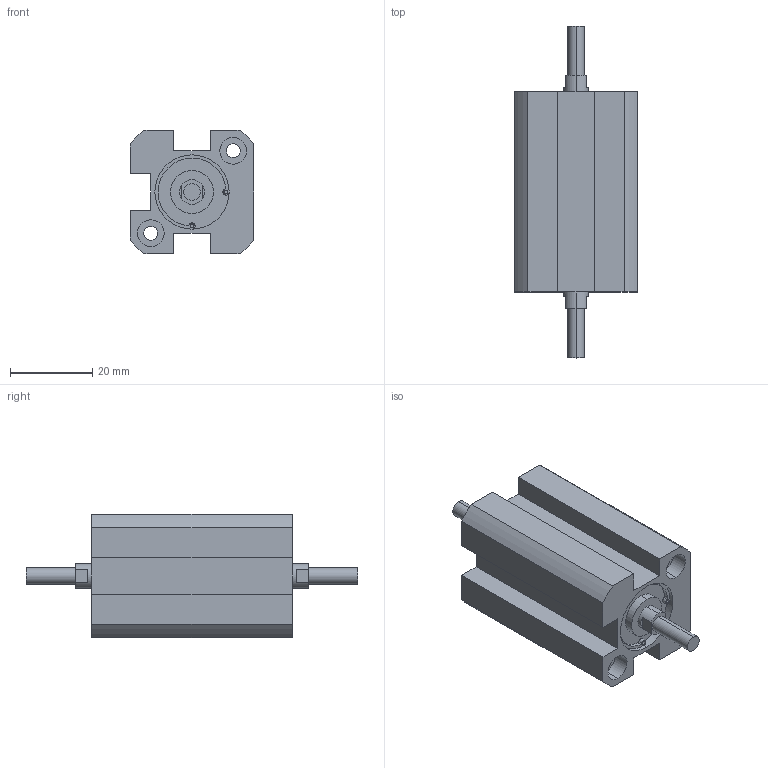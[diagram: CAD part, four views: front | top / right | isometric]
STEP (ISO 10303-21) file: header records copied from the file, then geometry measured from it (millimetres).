
FILE_DESCRIPTION (( 'STEP AP203' ), '1' );
FILE_NAME ('XG#M7-16D-10.STEP', '2016-05-24T02:22:03', ( '' ), ( '' ), 'SwSTEP 2.0', 'SolidWorks 2014', '' );
FILE_SCHEMA (( 'CONFIG_CONTROL_DESIGN' ));
Length unit declared in the file: millimetre
Products named in the file (1): XG#M7-16D-10
Bounding box: 30 x 80.5 x 30 mm (x, y, z)
Volume: 34535.5 mm3; surface area: 10702.2 mm2
Topology: 1 solids, 1 shells, 106 faces, 258 edges, 168 vertices
Faces by surface type: cylinder 58, plane 44, cone 4
Entity records: 3217 total; most frequent: DIRECTION 594, CARTESIAN_POINT 529, ORIENTED_EDGE 508, EDGE_CURVE 254, AXIS2_PLACEMENT_3D 233, VERTEX_POINT 168, EDGE_LOOP 128, LINE 128
